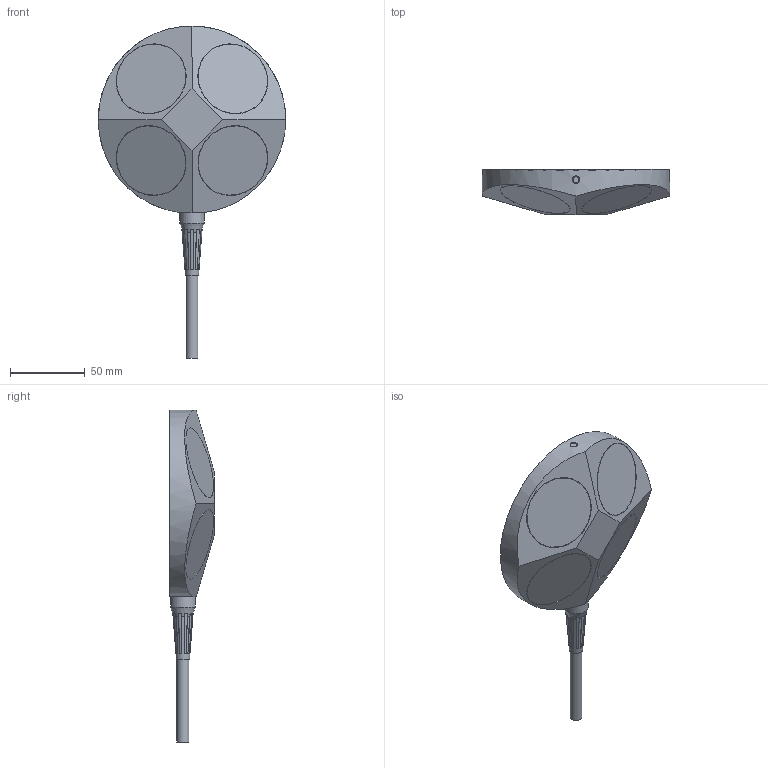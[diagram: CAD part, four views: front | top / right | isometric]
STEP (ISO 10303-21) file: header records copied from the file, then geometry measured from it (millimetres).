
FILE_DESCRIPTION(/* description */ (''),/* implementation_level */ '2;1');
FILE_NAME(/* name */ 'C:/Users/Andreas/Downloads/WL-21037-1_DVL-A100_Public.step',/* time_stamp */ '2020-11-20T20:44:10+01:00',/* author */ (''),/* organization */ (''),/* preprocessor_version */ 'ST-DEVELOPER v18.1',/* originating_system */ 'Autodesk Translation Framework v9.3.0.1241',/* authorisation */ '');
FILE_SCHEMA (('AUTOMOTIVE_DESIGN { 1 0 10303 214 3 1 1 }'));
Length unit declared in the file: millimetre
Products named in the file (7): WL-21037-1_DVL-A100_Public; DVL-A100_Housing; Light_pipe; GMA.3B.070.DN; M3x8 FLAT-HEAD SOCKET CAP SCREW v1; M5x5 SET SCREW v1; WL-54003_3TP1P
Assembly tree (14 placements, depth 2):
  WL-21037-1_DVL-A100_Public
    DVL-A100_Housing
    Light_pipe
    GMA.3B.070.DN
    M3x8 FLAT-HEAD SOCKET CAP SCREW v1  x8
    M5x5 SET SCREW v1  x2
    WL-54003_3TP1P
Bounding box: 125 x 30 x 221.49 mm (x, y, z)
Volume: 256332.9 mm3; surface area: 40684.7 mm2
Topology: 14 solids, 14 shells, 588 faces, 1435 edges, 913 vertices
Faces by surface type: cylinder 282, plane 181, cone 102, bspline 20, torus 3
Full cylindrical faces by diameter (mm): 2.35 x88, 3 x88, 3.2 x8, 3.332 x4, 3.961 x10, 4 x1, 4.2 x1, 4.234 x2, 5 x8, 6 x8, 8 x2, 12 x2, 13.8 x2, 16.5 x1, 48 x4, 48.5 x4, 122.9 x1, 123.1 x1
Entity records: 10349 total; most frequent: CARTESIAN_POINT 4847, DIRECTION 1115, ORIENTED_EDGE 1064, EDGE_CURVE 532, AXIS2_PLACEMENT_3D 435, VERTEX_POINT 345, EDGE_LOOP 269, LINE 245
